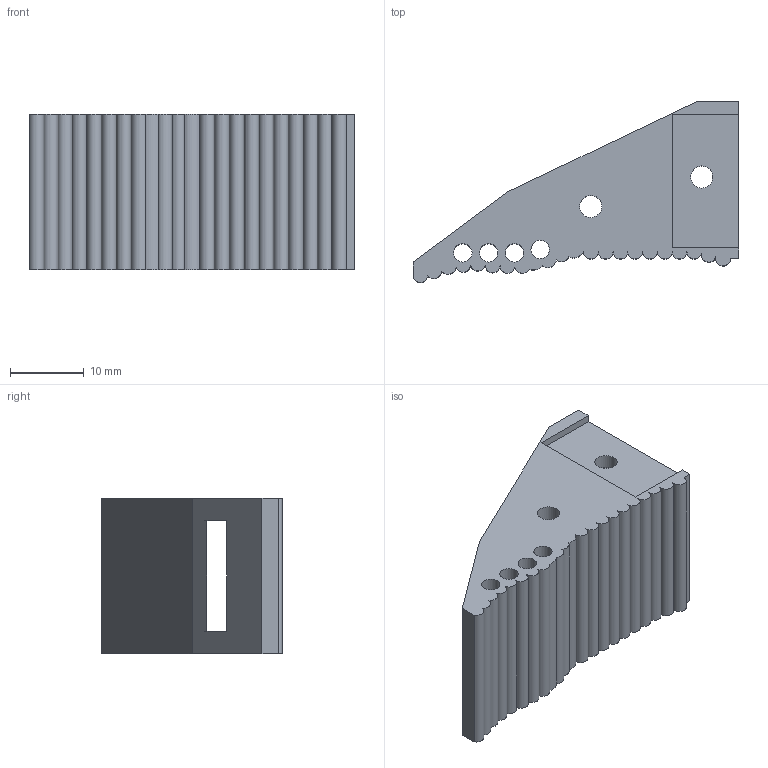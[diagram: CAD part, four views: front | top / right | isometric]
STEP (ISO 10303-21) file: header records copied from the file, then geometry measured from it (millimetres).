
FILE_DESCRIPTION (( 'STEP AP214' ), '1' );
FILE_NAME ('left-tpu-fingertip.step', '2026-11-14T03:54:35', ( '' ), ( '' ), 'SwSTEP 2.0', 'SolidWorks 2024', '' );
FILE_SCHEMA (( 'AUTOMOTIVE_DESIGN' ));
Length unit declared in the file: millimetre
Products named in the file (1): left-tpu-fingertip
Bounding box: 44 x 24.54 x 21 mm (x, y, z)
Volume: 6591.4 mm3; surface area: 6192 mm2
Topology: 1 solids, 1 shells, 46 faces, 136 edges, 91 vertices
Faces by surface type: cylinder 30, plane 16
Full cylindrical faces by diameter (mm): 2.5 x4, 3 x4
Entity records: 1578 total; most frequent: DIRECTION 281, CARTESIAN_POINT 264, ORIENTED_EDGE 254, EDGE_CURVE 127, AXIS2_PLACEMENT_3D 107, VERTEX_POINT 90, EDGE_LOOP 71, VECTOR 67
